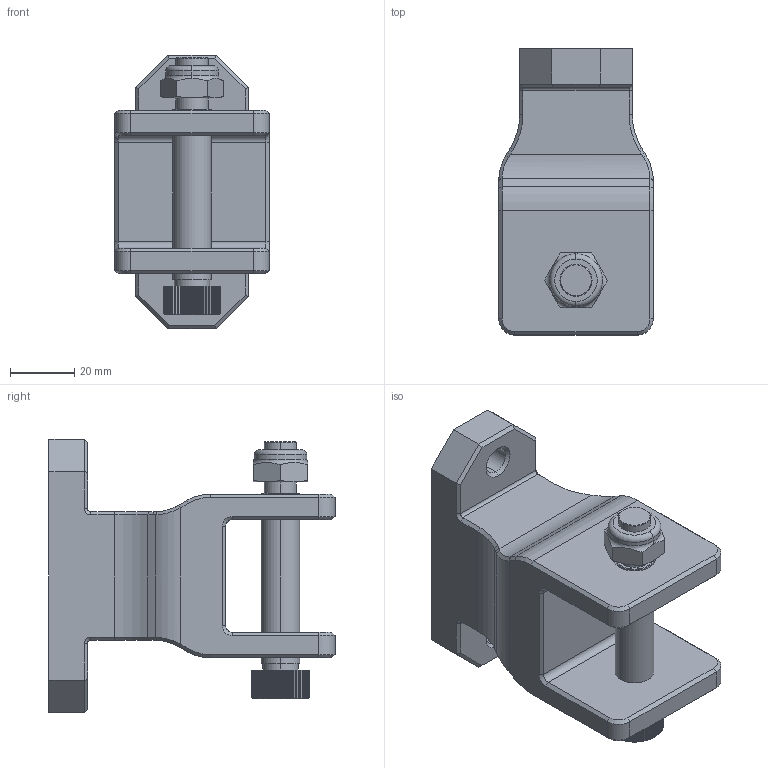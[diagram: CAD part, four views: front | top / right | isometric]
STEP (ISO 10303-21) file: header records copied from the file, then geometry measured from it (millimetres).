
FILE_DESCRIPTION((''),'2;1');
FILE_NAME('6158125350','2016-06-02T',('greextsd'),(''),'CREO PARAMETRIC BY PTC INC, 2016050','CREO PARAMETRIC BY PTC INC, 2016050','');
FILE_SCHEMA(('CONFIG_CONTROL_DESIGN'));
Length unit declared in the file: millimetre
Products named in the file (1): 6158125350
Bounding box: 48 x 89 x 85 mm (x, y, z)
Volume: 146381.8 mm3; surface area: 27502.3 mm2
Topology: 1 solids, 1 shells, 478 faces, 1312 edges, 844 vertices
Faces by surface type: plane 282, cylinder 134, cone 46, bspline 12, torus 4
Entity records: 16183 total; most frequent: CARTESIAN_POINT 4223, ORIENTED_EDGE 2624, DIRECTION 2338, EDGE_CURVE 1312, VERTEX_POINT 844, AXIS2_PLACEMENT_3D 794, VECTOR 750, LINE 750
